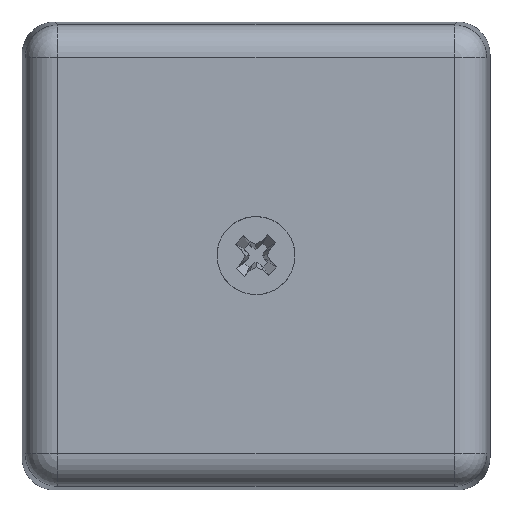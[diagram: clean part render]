
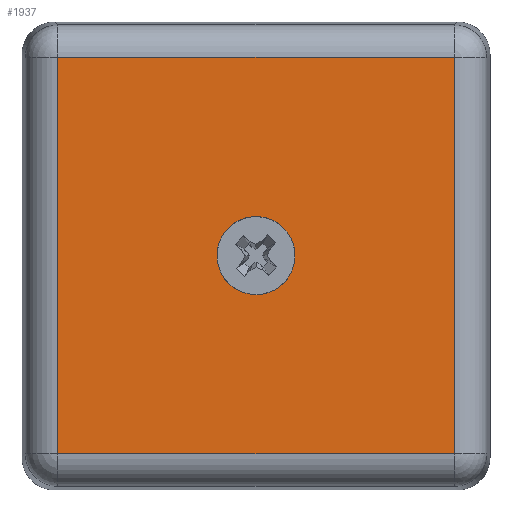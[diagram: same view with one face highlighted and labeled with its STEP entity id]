
A CAD part, top view. The second image highlights one B-rep face of the part: STEP entity #1937.
In plain terms, the highlighted planar face has unit normal (0, 0, 1).
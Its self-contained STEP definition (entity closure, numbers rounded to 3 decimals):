
#1937=ADVANCED_FACE('',(#6060,#6062),#6064,.T.);
#6060=FACE_BOUND('',#6061,.T.);
#6061=EDGE_LOOP('',(#9901,#9902,#9903,#9904));
#6062=FACE_BOUND('',#6063,.T.);
#6063=EDGE_LOOP('',(#9905));
#6064=PLANE('',#6065);
#6065=AXIS2_PLACEMENT_3D('',#6066,#6067,#6068);
#6066=CARTESIAN_POINT('',(0.,0.,24.));
#6067=DIRECTION('',(0.,0.,1.));
#6068=DIRECTION('',(-1.,0.,0.));
#9901=ORIENTED_EDGE('',*,*,#12481,.F.);
#9902=ORIENTED_EDGE('',*,*,#12478,.F.);
#9903=ORIENTED_EDGE('',*,*,#12476,.F.);
#9904=ORIENTED_EDGE('',*,*,#12484,.F.);
#9905=ORIENTED_EDGE('',*,*,#12485,.F.);
#12476=EDGE_CURVE('',#14448,#14451,#14453,.F.);
#12478=EDGE_CURVE('',#14451,#14455,#14456,.F.);
#12481=EDGE_CURVE('',#14455,#14459,#14460,.F.);
#12484=EDGE_CURVE('',#14459,#14448,#14463,.F.);
#12485=EDGE_CURVE('',#14464,#14464,#14465,.F.);
#14448=VERTEX_POINT('',#18109);
#14451=VERTEX_POINT('',#18118);
#14453=LINE('',#18123,#18124);
#14455=VERTEX_POINT('',#18130);
#14456=LINE('',#18131,#18132);
#14459=VERTEX_POINT('',#18142);
#14460=LINE('',#18143,#18144);
#14463=LINE('',#18154,#18155);
#14464=VERTEX_POINT('',#18157);
#14465=CIRCLE('',#18158,4.2);
#18109=CARTESIAN_POINT('',(-21.351,-21.351,24.));
#18118=CARTESIAN_POINT('',(-21.351,21.351,24.));
#18123=CARTESIAN_POINT('',(-21.351,21.351,24.));
#18124=VECTOR('',#18125,1.);
#18125=DIRECTION('',(0.,-1.,0.));
#18130=CARTESIAN_POINT('',(21.351,21.351,24.));
#18131=CARTESIAN_POINT('',(21.351,21.351,24.));
#18132=VECTOR('',#18133,1.);
#18133=DIRECTION('',(-1.,0.,0.));
#18142=CARTESIAN_POINT('',(21.351,-21.351,24.));
#18143=CARTESIAN_POINT('',(21.351,-21.351,24.));
#18144=VECTOR('',#18145,1.);
#18145=DIRECTION('',(0.,1.,0.));
#18154=CARTESIAN_POINT('',(-21.351,-21.351,24.));
#18155=VECTOR('',#18156,1.);
#18156=DIRECTION('',(1.,0.,0.));
#18157=CARTESIAN_POINT('',(-2.97,2.97,24.));
#18158=AXIS2_PLACEMENT_3D('',#18159,#18160,#18161);
#18159=CARTESIAN_POINT('',(0.,0.,24.));
#18160=DIRECTION('',(-0.,-0.,-1.));
#18161=DIRECTION('',(-0.707,0.707,0.));
